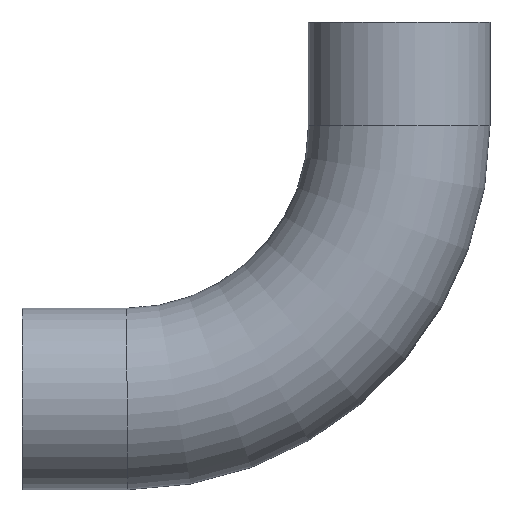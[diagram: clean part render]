
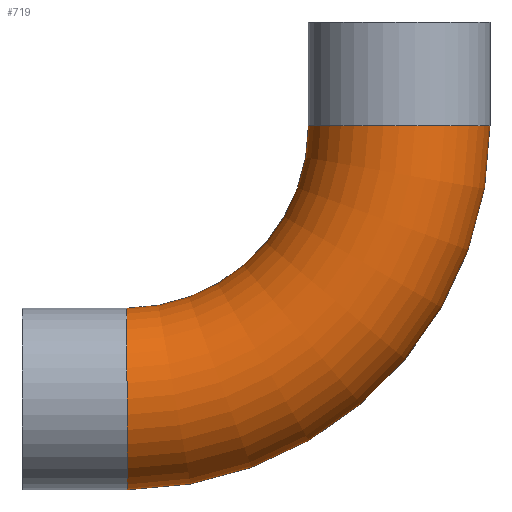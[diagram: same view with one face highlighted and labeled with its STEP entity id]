
A CAD part, front view. The second image highlights one B-rep face of the part: STEP entity #719.
In plain terms, the highlighted toroidal (fillet/blend) face has major radius 95.532 mm and minor radius 31.75 mm.
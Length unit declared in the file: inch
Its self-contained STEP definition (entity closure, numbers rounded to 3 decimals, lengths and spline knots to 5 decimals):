
#40 = EDGE_CURVE ( 'NONE', #371, #148, #526, .T. ) ;
#49 = ORIENTED_EDGE ( 'NONE', *, *, #61, .T. ) ;
#50 = CARTESIAN_POINT ( 'NONE',  ( 0., 0., -1.42591 ) ) ;
#56 = DIRECTION ( 'NONE',  ( 0., 0., 1. ) ) ;
#61 = EDGE_CURVE ( 'NONE', #387, #371, #187, .T. ) ;
#82 = ORIENTED_EDGE ( 'NONE', *, *, #101, .F. ) ;
#101 = EDGE_CURVE ( 'NONE', #387, #516, #313, .T. ) ;
#112 = DIRECTION ( 'NONE',  ( 1., 0., 0. ) ) ;
#148 = VERTEX_POINT ( 'NONE', #533 ) ;
#172 = DIRECTION ( 'NONE',  ( 0., 0., 1. ) ) ;
#176 = ORIENTED_EDGE ( 'NONE', *, *, #40, .T. ) ;
#179 = EDGE_LOOP ( 'NONE', ( #204, #82, #49, #176 ) ) ;
#187 = CIRCLE ( 'NONE', #691, 2.51112 ) ;
#197 = DIRECTION ( 'NONE',  ( 0., 1., 0. ) ) ;
#199 = CARTESIAN_POINT ( 'NONE',  ( -3.76112, 0., -1.42591 ) ) ;
#204 = ORIENTED_EDGE ( 'NONE', *, *, #478, .F. ) ;
#206 = DIRECTION ( 'NONE',  ( 0., 0., 1. ) ) ;
#227 = CARTESIAN_POINT ( 'NONE',  ( 1.25, 0., -1.42591 ) ) ;
#232 = DIRECTION ( 'NONE',  ( 0., 1., 0. ) ) ;
#268 = DIRECTION ( 'NONE',  ( 0., 0., 1. ) ) ;
#313 = CIRCLE ( 'NONE', #565, 1.25 ) ;
#331 = CARTESIAN_POINT ( 'NONE',  ( -3.76112, 0., -1.42591 ) ) ;
#335 = AXIS2_PLACEMENT_3D ( 'NONE', #637, #685, #206 ) ;
#345 = DIRECTION ( 'NONE',  ( 0.004, 0., -1. ) ) ;
#350 = TOROIDAL_SURFACE ( 'NONE', #335, 3.76112, 1.25 ) ;
#356 = CARTESIAN_POINT ( 'NONE',  ( -3.74574, 0., -5.187 ) ) ;
#371 = VERTEX_POINT ( 'NONE', #413 ) ;
#384 = FACE_OUTER_BOUND ( 'NONE', #179, .T. ) ;
#387 = VERTEX_POINT ( 'NONE', #517 ) ;
#413 = CARTESIAN_POINT ( 'NONE',  ( -3.75085, 0., -3.93701 ) ) ;
#449 = AXIS2_PLACEMENT_3D ( 'NONE', #199, #197, #172 ) ;
#478 = EDGE_CURVE ( 'NONE', #516, #148, #709, .T. ) ;
#516 = VERTEX_POINT ( 'NONE', #227 ) ;
#517 = CARTESIAN_POINT ( 'NONE',  ( -1.25, 0., -1.42591 ) ) ;
#526 = CIRCLE ( 'NONE', #747, 1.25 ) ;
#533 = CARTESIAN_POINT ( 'NONE',  ( -3.74062, 0., -6.43699 ) ) ;
#565 = AXIS2_PLACEMENT_3D ( 'NONE', #50, #56, #112 ) ;
#594 = DIRECTION ( 'NONE',  ( 1., 0., 0.004 ) ) ;
#637 = CARTESIAN_POINT ( 'NONE',  ( -3.76112, 0., -1.42591 ) ) ;
#685 = DIRECTION ( 'NONE',  ( 0., 1., 0. ) ) ;
#691 = AXIS2_PLACEMENT_3D ( 'NONE', #331, #232, #268 ) ;
#709 = CIRCLE ( 'NONE', #449, 5.01112 ) ;
#719 = ADVANCED_FACE ( 'NONE', ( #384 ), #350, .T. ) ;
#747 = AXIS2_PLACEMENT_3D ( 'NONE', #356, #594, #345 ) ;
